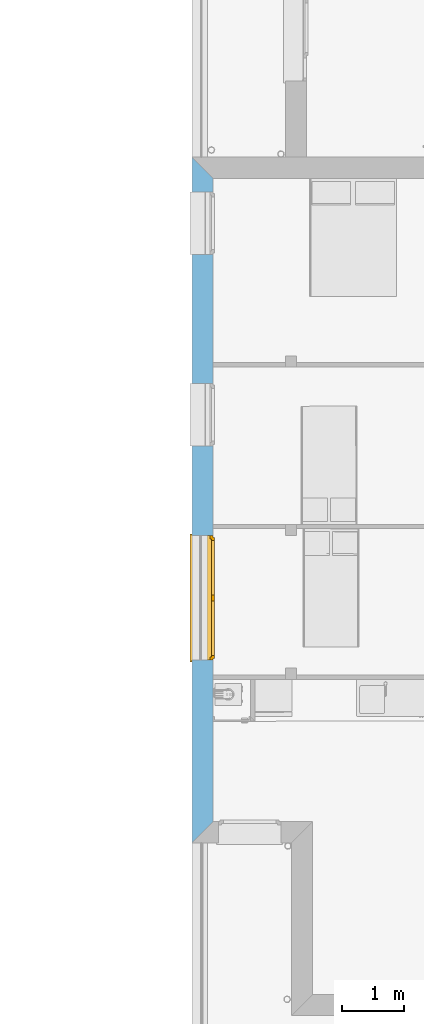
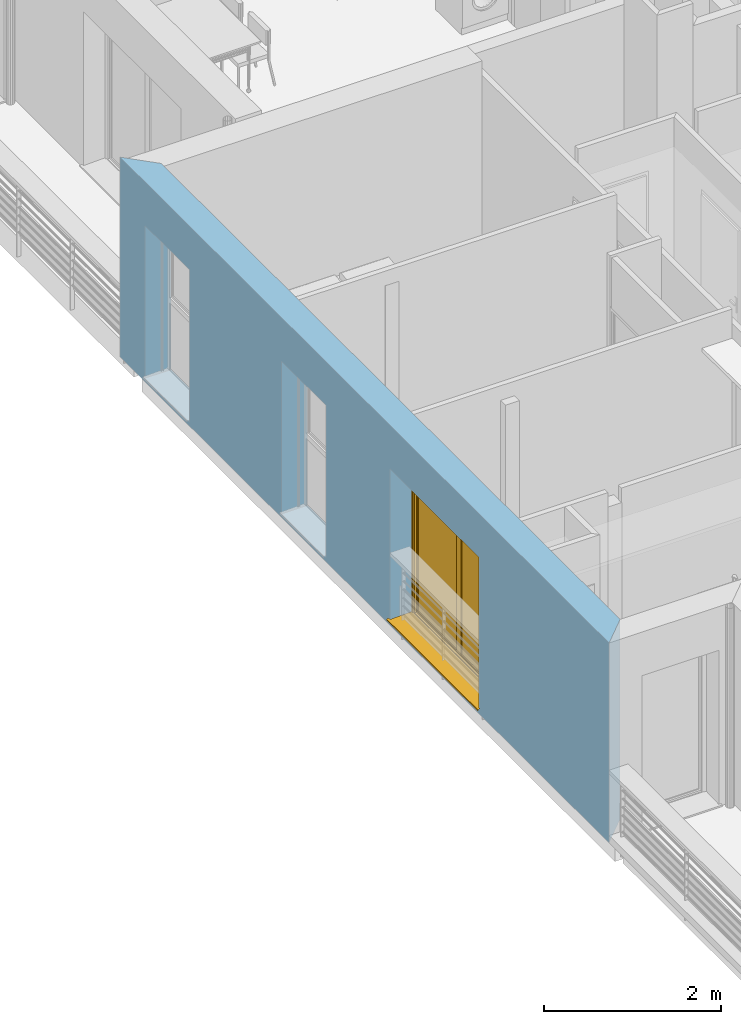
# One storey, part 28 of 171: 1 window, 3 openings, plus 1 element that does not belong to this part.
"""IFC2X3 building model written with IfcOpenShell, lengths in millimetres."""

from ifc_helpers import new_model, entity, si_unit, converted_unit, derived_unit, money_unit, direction, frame, origin_with_axes, place, context, subcontext, project, spatial, polyline, outline, extrude, open_shell, faceted_brep, surface_model, source, transform, mapped, material, layer, layer_set, layer_usage, type_object, element, fill, save


model = new_model("IFC2X3")

# Units and contexts
model_context = context("Model", 3, precision=0.01, world=origin_with_axes(), true_north=direction((0.0, 1.0)))
body_context = subcontext(model_context, "Body", "Model", "MODEL_VIEW")
ifc_project = project(units=[si_unit("LENGTHUNIT", "METRE", prefix="MILLI"), si_unit("AREAUNIT", "SQUARE_METRE"), si_unit("VOLUMEUNIT", "CUBIC_METRE"), converted_unit("PLANEANGLEUNIT", "DEGREE", entity("IfcPlaneAngleMeasure", 0.0174532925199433), si_unit("PLANEANGLEUNIT", "RADIAN"), dimensions=[0, 0, 0, 0, 0, 0, 0]), money_unit("USD"), converted_unit("TIMEUNIT", "Year", entity("IfcTimeMeasure", 31557600.0), si_unit("TIMEUNIT", "SECOND"), dimensions=[0, 0, 1, 0, 0, 0, 0]), si_unit("MASSUNIT", "GRAM", prefix="KILO"), si_unit("THERMODYNAMICTEMPERATUREUNIT", "DEGREE_CELSIUS"), si_unit("LUMINOUSINTENSITYUNIT", "LUMEN"), si_unit("ENERGYUNIT", "JOULE", prefix="MEGA"), derived_unit("THERMALCONDUCTANCEUNIT", [(si_unit("POWERUNIT", "WATT"), 1), (si_unit("LENGTHUNIT", "METRE"), -1), (si_unit("THERMODYNAMICTEMPERATUREUNIT", "KELVIN"), -1)]), derived_unit("SPECIFICHEATCAPACITYUNIT", [(si_unit("ENERGYUNIT", "JOULE"), 1), (si_unit("MASSUNIT", "GRAM", prefix="KILO"), -1), (si_unit("THERMODYNAMICTEMPERATUREUNIT", "KELVIN"), -1)]), derived_unit("MASSDENSITYUNIT", [(si_unit("MASSUNIT", "GRAM", prefix="KILO"), 1), (si_unit("VOLUMEUNIT", "CUBIC_METRE"), -1)])], contexts=[model_context])

# Site, building, storey
site_placement = place(None, origin_with_axes())
site = spatial("IfcSite", under=ifc_project, at=site_placement, Name="Site", CompositionType="ELEMENT")
building_placement = place(site_placement, origin_with_axes())
building = spatial("IfcBuilding", under=site, at=building_placement, Name="Bâtiment", CompositionType="ELEMENT")
storey_placement = place(building_placement, frame((0.0, 0.0, 3000.0), z_axis=(0.0, 0.0, 1.0), x_axis=(1.0, 0.0, 0.0)))
storey = spatial("IfcBuildingStorey", under=building, at=storey_placement, Name="rdc", CompositionType="ELEMENT", Elevation=3000.0)

# Wall, openings, window
ifc_material_1 = material(Name="Parpaing 312445824")
ifc_layer_1 = layer(ifc_material_1, 180.0, ventilated="UNKNOWN")
ifc_material_2 = material(Name="Isolant styromousse 301821074")
ifc_layer_2 = layer(ifc_material_2, 160.0, ventilated="UNKNOWN")
ifc_layer_set = layer_set([ifc_layer_1, ifc_layer_2], Name="isol int 18+16 0018356637")
ifc_layer_usage = layer_usage(ifc_layer_set, "AXIS2", "POSITIVE", 0.0)
wall_type = type_object("IfcWallType", Name="isol int 18+16 0018356637 340", PredefinedType="NOTDEFINED")
wall_placement = place(storey_placement, frame((2216634.233344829, -644016.3765232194, 0.0), z_axis=(0.0, 0.0, 1.0), x_axis=(-5.304001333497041e-10, -1.0, 0.0)))
wall = element("IfcWallStandardCase", 1, at=wall_placement, inside=storey, type_object=wall_type, material=ifc_layer_usage, Name="Mur-143", context=body_context, shape_type="SweptSolid", body=[
    extrude(outline(polyline([(0.0, 0.0), (11025.09125507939, 0.0), (10685.09125489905, 340.0000000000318), (339.9999955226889, 340.0000000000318), (0.0, 0.0)])), origin_with_axes(), (0.0, 0.0, 1.0), 2750.0),
])
opening_1_placement = place(wall_placement, frame((1062.585342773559, 2.273736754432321e-10, 49.99999999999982), z_axis=(0.0, 0.0, 1.0), x_axis=(1.0, 0.0, 0.0)))
element("IfcOpeningElement", 2, at=opening_1_placement, cuts=wall, Name="Fen-154", context=body_context, shape_type="Brep", body=[
    faceted_brep([(-500.0000001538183, 290.0000002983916, 2100.0), (-500.0000001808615, 341.0000002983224, 2100.0), (-500.0000001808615, 341.0000002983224, 0.0), (-500.0000001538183, 290.0000002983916, 0.0), (-500.000000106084, 200.0000002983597, 2100.0), (-500.000000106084, 200.0000002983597, 2300.0), (-500.0000002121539, 400.0000002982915, 2300.0), (-500.0000002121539, 400.0000002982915, 2100.0), (499.9999998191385, 341.0000008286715, 2100.0), (499.9999998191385, 341.0000008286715, 0.0), (499.9999998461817, 290.0000008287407, 0.0), (500.0000000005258, -1.000005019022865, 0.0), (-499.9999999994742, -1.000005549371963, 0.0), (-499.9999999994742, -1.000005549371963, 2100.0), (499.999999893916, 200.0000008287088, 2100.0), (499.999999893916, 200.0000008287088, 2300.0), (499.9999997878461, 400.0000008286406, 2300.0), (499.9999997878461, 400.0000008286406, 2100.0), (499.9999998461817, 290.0000008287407, 2100.0), (500.0000000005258, -1.000005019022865, 2100.0)], [[[0, 1, 2, 3]], [[1, 0, 4, 5, 6, 7]], [[1, 8, 9, 2]], [[10, 11, 12, 3, 2, 9]], [[4, 0, 3, 12, 13]], [[4, 14, 15, 5]], [[15, 16, 6, 5]], [[16, 17, 7, 6]], [[8, 1, 7, 17]], [[8, 18, 10, 9]], [[18, 14, 19, 11, 10]], [[13, 12, 11, 19]], [[14, 4, 13, 19]], [[18, 8, 17, 16, 15, 14]]]),
])
opening_2_placement = place(wall_placement, frame((4141.773490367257, 1.13686837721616e-10, 49.99999999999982), z_axis=(0.0, 0.0, 1.0), x_axis=(1.0, 0.0, 0.0)))
element("IfcOpeningElement", 3, at=opening_2_placement, cuts=wall, Name="Fen-154", context=body_context, shape_type="Brep", body=[
    faceted_brep([(-500.0000001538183, 290.0000019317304, 2100.0), (-500.0000001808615, 341.0000019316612, 2100.0), (-500.0000001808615, 341.0000019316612, 0.0), (-500.0000001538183, 290.0000019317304, 0.0), (-500.000000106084, 200.0000019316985, 2100.0), (-500.000000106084, 200.0000019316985, 2300.0), (-500.0000002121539, 400.0000019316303, 2300.0), (-500.0000002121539, 400.0000019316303, 2100.0), (499.9999998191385, 341.0000024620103, 2100.0), (499.9999998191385, 341.0000024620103, 0.0), (499.9999998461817, 290.0000024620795, 0.0), (500.0000000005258, -1.000003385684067, 0.0), (-499.9999999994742, -1.000003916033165, 0.0), (-499.9999999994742, -1.000003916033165, 2100.0), (499.999999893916, 200.0000024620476, 2100.0), (499.999999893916, 200.0000024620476, 2300.0), (499.9999997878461, 400.0000024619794, 2300.0), (499.9999997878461, 400.0000024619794, 2100.0), (499.9999998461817, 290.0000024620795, 2100.0), (500.0000000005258, -1.000003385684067, 2100.0)], [[[0, 1, 2, 3]], [[1, 0, 4, 5, 6, 7]], [[1, 8, 9, 2]], [[10, 11, 12, 3, 2, 9]], [[4, 0, 3, 12, 13]], [[4, 14, 15, 5]], [[15, 16, 6, 5]], [[16, 17, 7, 6]], [[8, 1, 7, 17]], [[8, 18, 10, 9]], [[18, 14, 19, 11, 10]], [[13, 12, 11, 19]], [[14, 4, 13, 19]], [[18, 8, 17, 16, 15, 14]]]),
])
opening_3_placement = place(wall_placement, frame((7087.273470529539, 1.13686837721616e-10, 49.99999999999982), z_axis=(0.0, 0.0, 1.0), x_axis=(1.0, 0.0, 0.0)))
opening_3 = element("IfcOpeningElement", 4, at=opening_3_placement, cuts=wall, Name="Fen-207", context=body_context, shape_type="Brep", body=[
    faceted_brep([(-1000.000000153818, 290.0000032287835, 2100.0), (-1000.000000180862, 341.0000032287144, 2100.0), (-1000.000000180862, 341.0000032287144, 0.0), (-1000.000000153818, 290.0000032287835, 0.0), (-1000.000000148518, 280.0000032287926, 2100.0), (-1000.000000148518, 280.0000032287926, 2350.0), (-1000.000000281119, 530.0000032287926, 2350.0), (-1000.000000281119, 530.0000032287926, 2100.0), (999.9999998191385, 341.0000042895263, 2100.0), (999.9999998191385, 341.0000042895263, 0.0), (999.9999998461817, 290.0000042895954, 0.0), (1000.000000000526, -1.000001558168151, 0.0), (-999.9999999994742, -1.000002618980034, 0.0), (-999.9999999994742, -1.000002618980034, 2100.0), (999.9999998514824, 280.0000042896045, 2100.0), (999.9999998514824, 280.0000042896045, 2350.0), (999.9999997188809, 530.0000042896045, 2350.0), (999.9999997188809, 530.0000042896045, 2100.0), (999.9999998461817, 290.0000042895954, 2100.0), (1000.000000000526, -1.000001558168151, 2100.0)], [[[0, 1, 2, 3]], [[1, 0, 4, 5, 6, 7]], [[1, 8, 9, 2]], [[10, 11, 12, 3, 2, 9]], [[4, 0, 3, 12, 13]], [[4, 14, 15, 5]], [[6, 5, 15, 16]], [[7, 6, 16, 17]], [[8, 1, 7, 17]], [[8, 18, 10, 9]], [[18, 14, 19, 11, 10]], [[13, 12, 11, 19]], [[14, 4, 13, 19]], [[18, 8, 17, 16, 15, 14]]]),
])
window_style = type_object("IfcWindowStyle", Name="Fenêtre châssis double variable 27", ConstructionType="NOTDEFINED", OperationType="DOUBLE_PANEL_VERTICAL", ParameterTakesPrecedence=False, Sizeable=False)
shared_shape = source(origin_with_axes(), body_context, "Body", "SurfaceModel", [
    surface_model("IfcShellBasedSurfaceModel", [(-1000.0, -51.00000000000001, 40.00000000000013), (1000.0, -51.00000000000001, 40.0), (1000.0, -51.00000000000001, 50.0), (-1000.0, -51.00000000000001, 50.00000000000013), (-1030.0, -369.9999999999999, 28.96551724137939), (1030.0, -369.9999999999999, 28.96551724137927), (1030.0, -339.9999999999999, 30.00324289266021), (1000.0, -339.9999999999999, 30.00324289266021), (-1000.0, -339.9999999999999, 30.00324289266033), (-1030.0, -339.9999999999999, 30.00324289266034), (-1030.0, -369.9999999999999, 8.965517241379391), (1030.0, -369.9999999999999, 8.965517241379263), (-1030.0, -359.9999999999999, 18.96551724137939), (1030.0, -359.9999999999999, 18.96551724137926)], [open_shell([[[0, 1, 2, 3]], [[4, 5, 6, 7, 1, 0, 8, 9]], [[10, 11, 5, 4]], [[12, 13, 11, 10]]])]),
    faceted_brep([(1000.0, -60.00000000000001, 2350.0), (1000.0, 190.0, 2350.0), (997.0, 190.0, 2350.0), (997.0, -60.00000000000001, 2350.0), (1000.0, -60.00000000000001, 2100.0), (1000.0, 190.0, 2100.0), (997.0, 190.0, 2100.0), (997.0, -60.00000000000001, 2100.0)], [[[0, 1, 2, 3]], [[0, 4, 5, 1]], [[1, 5, 6, 2]], [[3, 2, 6, 7]], [[4, 0, 3, 7]], [[5, 4, 7, 6]]]),
    faceted_brep([(-997.0000000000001, -59.99999999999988, 2350.0), (-997.0000000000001, 190.0000000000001, 2350.0), (-1000.0, 190.0000000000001, 2350.0), (-1000.0, -59.99999999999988, 2350.0), (-997.0000000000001, -59.99999999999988, 2100.0), (-997.0000000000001, 190.0000000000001, 2100.0), (-1000.0, 190.0000000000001, 2100.0), (-1000.0, -59.99999999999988, 2100.0)], [[[0, 1, 2, 3]], [[0, 4, 5, 1]], [[1, 5, 6, 2]], [[3, 2, 6, 7]], [[4, 0, 3, 7]], [[5, 4, 7, 6]]]),
    faceted_brep([(997.0, -60.0, 2100.0), (997.0, -60.0, 2350.0), (-997.0, -59.99999999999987, 2350.0), (-997.0, -59.99999999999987, 2100.0), (997.0, -56.99999999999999, 2100.0), (997.0, -56.99999999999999, 2347.0), (997.0, 187.0, 2347.0), (997.0, 187.0, 2103.0), (997.0, -37.99999999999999, 2103.0), (997.0, -37.99999999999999, 2100.0), (997.0, 190.0, 2100.0), (997.0, 190.0, 2350.0), (-997.0, 190.0000000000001, 2350.0), (-997.0, 190.0000000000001, 2100.0), (-997.0, -37.99999999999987, 2100.0), (-997.0, -37.99999999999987, 2103.0), (-997.0, 187.0000000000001, 2103.0), (-997.0, 187.0000000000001, 2347.0), (-997.0, -56.99999999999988, 2347.0), (-997.0, -56.99999999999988, 2100.0)], [[[0, 1, 2, 3]], [[0, 4, 5, 6, 7, 8, 9, 10, 11, 1]], [[1, 11, 12, 2]], [[3, 2, 12, 13, 14, 15, 16, 17, 18, 19]], [[4, 0, 3, 19]], [[5, 4, 19, 18]], [[6, 5, 18, 17]], [[7, 6, 17, 16]], [[8, 7, 16, 15]], [[9, 8, 15, 14]], [[10, 9, 14, 13]], [[11, 10, 13, 12]]]),
    faceted_brep([(994.0, -40.37442957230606, 2206.419644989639), (994.0, -35.54711042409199, 2188.403844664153), (994.0, -27.66471820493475, 2171.5), (994.0, -16.9667554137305, 2156.22172576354), (994.0, -3.778274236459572, 2143.03324458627), (994.0, 11.50000000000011, 2132.335281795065), (994.0, 28.40384466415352, 2124.452889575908), (994.0, 46.4196449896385, 2119.625570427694), (994.0, 65.00000000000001, 2118.0), (994.0, 83.58035501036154, 2119.625570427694), (994.0, 101.5961553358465, 2124.452889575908), (994.0, 118.4999999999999, 2132.335281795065), (994.0, 133.7782742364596, 2143.03324458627), (994.0, 146.9667554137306, 2156.22172576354), (994.0, 157.6647182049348, 2171.5), (994.0, 165.5471104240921, 2188.403844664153), (994.0, 170.3744295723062, 2206.419644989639), (994.0, 171.9999999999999, 2225.0), (994.0, 170.3744295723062, 2243.580355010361), (994.0, 165.5471104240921, 2261.596155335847), (994.0, 157.6647182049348, 2278.5), (994.0, 146.9667554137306, 2293.77827423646), (994.0, 133.7782742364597, 2306.966755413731), (994.0, 118.5, 2317.664718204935), (994.0, 101.5961553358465, 2325.547110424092), (994.0, 83.58035501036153, 2330.374429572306), (994.0, 64.99999999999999, 2332.0), (994.0, 46.41964498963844, 2330.374429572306), (994.0, 28.40384466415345, 2325.547110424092), (994.0, 11.5, 2317.664718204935), (994.0, -3.778274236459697, 2306.966755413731), (994.0, -16.96675541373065, 2293.77827423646), (994.0, -27.66471820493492, 2278.5), (994.0, -35.54711042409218, 2261.596155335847), (994.0, -40.37442957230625, 2243.580355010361), (994.0, -41.99999999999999, 2225.0), (-994.0, -40.37442957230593, 2206.419644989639), (-994.0, -35.54711042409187, 2188.403844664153), (-994.0, -27.66471820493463, 2171.5), (-994.0, -16.96675541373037, 2156.22172576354), (-994.0, -3.778274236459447, 2143.03324458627), (-994.0, 11.50000000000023, 2132.335281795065), (-994.0, 28.40384466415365, 2124.452889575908), (-994.0, 46.41964498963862, 2119.625570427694), (-994.0, 65.00000000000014, 2118.0), (-994.0, 83.58035501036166, 2119.625570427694), (-994.0, 101.5961553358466, 2124.452889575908), (-994.0, 118.5000000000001, 2132.335281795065), (-994.0, 133.7782742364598, 2143.03324458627), (-994.0, 146.9667554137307, 2156.22172576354), (-994.0, 157.6647182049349, 2171.5), (-994.0, 165.5471104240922, 2188.403844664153), (-994.0, 170.3744295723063, 2206.419644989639), (-994.0, 172.0, 2225.0), (-994.0, 170.3744295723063, 2243.580355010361), (-994.0, 165.5471104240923, 2261.596155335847), (-994.0, 157.664718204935, 2278.5), (-994.0, 146.9667554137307, 2293.77827423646), (-994.0, 133.7782742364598, 2306.966755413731), (-994.0, 118.5000000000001, 2317.664718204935), (-994.0, 101.5961553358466, 2325.547110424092), (-994.0, 83.58035501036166, 2330.374429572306), (-994.0, 65.00000000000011, 2332.0), (-994.0, 46.41964498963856, 2330.374429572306), (-994.0, 28.40384466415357, 2325.547110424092), (-994.0, 11.50000000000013, 2317.664718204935), (-994.0, -3.778274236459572, 2306.966755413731), (-994.0, -16.96675541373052, 2293.77827423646), (-994.0, -27.6647182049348, 2278.5), (-994.0, -35.54711042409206, 2261.596155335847), (-994.0, -40.37442957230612, 2243.580355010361), (-994.0, -41.99999999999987, 2225.0)], [[[0, 1, 2, 3, 4, 5, 6, 7, 8, 9, 10, 11, 12, 13, 14, 15, 16, 17, 18, 19, 20, 21, 22, 23, 24, 25, 26, 27, 28, 29, 30, 31, 32, 33, 34, 35]], [[1, 0, 36, 37]], [[2, 1, 37, 38]], [[3, 2, 38, 39]], [[4, 3, 39, 40]], [[5, 4, 40, 41]], [[6, 5, 41, 42]], [[7, 6, 42, 43]], [[8, 7, 43, 44]], [[9, 8, 44, 45]], [[10, 9, 45, 46]], [[11, 10, 46, 47]], [[12, 11, 47, 48]], [[13, 12, 48, 49]], [[14, 13, 49, 50]], [[15, 14, 50, 51]], [[16, 15, 51, 52]], [[17, 16, 52, 53]], [[18, 17, 53, 54]], [[19, 18, 54, 55]], [[20, 19, 55, 56]], [[21, 20, 56, 57]], [[22, 21, 57, 58]], [[23, 22, 58, 59]], [[24, 23, 59, 60]], [[25, 24, 60, 61]], [[26, 25, 61, 62]], [[27, 26, 62, 63]], [[28, 27, 63, 64]], [[29, 28, 64, 65]], [[30, 29, 65, 66]], [[31, 30, 66, 67]], [[32, 31, 67, 68]], [[33, 32, 68, 69]], [[34, 33, 69, 70]], [[35, 34, 70, 71]], [[0, 35, 71, 36]], [[36, 71, 70, 69, 68, 67, 66, 65, 64, 63, 62, 61, 60, 59, 58, 57, 56, 55, 54, 53, 52, 51, 50, 49, 48, 47, 46, 45, 44, 43, 42, 41, 40, 39, 38, 37]]]),
    faceted_brep([(-1000.0, -34.99999999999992, 30.0), (-1000.0, -59.99999999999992, 30.0), (-1000.0, -59.99999999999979, 2100.0), (-1000.0, -34.99999999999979, 2100.0), (-975.0, -34.99999999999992, 30.0), (-975.0, -37.99999999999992, 30.0), (-997.0, -37.99999999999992, 30.0), (-997.0, -56.99999999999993, 30.0), (-975.0, -56.99999999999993, 30.0), (-975.0, -59.99999999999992, 30.0), (-975.0, -59.99999999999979, 2100.0), (-975.0, -56.99999999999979, 2100.0), (-997.0, -56.99999999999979, 2100.0), (-997.0, -37.99999999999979, 2100.0), (-975.0, -37.99999999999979, 2100.0), (-975.0, -34.99999999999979, 2100.0)], [[[0, 1, 2, 3]], [[0, 4, 5, 6, 7, 8, 9, 1]], [[1, 9, 10, 2]], [[3, 2, 10, 11, 12, 13, 14, 15]], [[4, 0, 3, 15]], [[5, 4, 15, 14]], [[6, 5, 14, 13]], [[7, 6, 13, 12]], [[8, 7, 12, 11]], [[9, 8, 11, 10]]]),
    faceted_brep([(1000.0, -34.99999999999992, 30.0), (1000.0, -34.99999999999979, 2100.0), (1000.0, -59.99999999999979, 2100.0), (1000.0, -59.99999999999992, 30.0), (975.0, -34.99999999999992, 30.0), (975.0, -34.99999999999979, 2100.0), (975.0, -37.99999999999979, 2100.0), (997.0, -37.99999999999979, 2100.0), (997.0, -56.99999999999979, 2100.0), (975.0, -56.99999999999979, 2100.0), (975.0, -59.99999999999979, 2100.0), (975.0, -59.99999999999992, 30.0), (975.0, -56.99999999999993, 30.0), (997.0, -56.99999999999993, 30.0), (997.0, -37.99999999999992, 30.0), (975.0, -37.99999999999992, 30.0)], [[[0, 1, 2, 3]], [[4, 5, 1, 0]], [[1, 5, 6, 7, 8, 9, 10, 2]], [[3, 2, 10, 11]], [[0, 3, 11, 12, 13, 14, 15, 4]], [[15, 6, 5, 4]], [[14, 7, 6, 15]], [[13, 8, 7, 14]], [[12, 9, 8, 13]], [[11, 10, 9, 12]]]),
    faceted_brep([(-997.0, -46.66666666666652, 2225.0), (997.0, -46.66666666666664, 2225.0), (997.0, -46.66666666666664, 2216.666666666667), (-997.0, -46.66666666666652, 2216.666666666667), (-997.0, -51.66666666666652, 2225.0), (997.0, -51.66666666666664, 2225.0), (997.0, -51.66666666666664, 2216.666666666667), (997.0, -49.99999999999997, 2200.0), (997.0, -44.99999999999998, 2200.0), (-997.0, -44.99999999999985, 2200.0), (-997.0, -49.99999999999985, 2200.0), (-997.0, -51.66666666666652, 2216.666666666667)], [[[0, 1, 2, 3]], [[1, 0, 4, 5]], [[1, 5, 6, 7, 8, 2]], [[2, 8, 9, 3]], [[4, 0, 3, 9, 10, 11]], [[6, 5, 4, 11]], [[7, 6, 11, 10]], [[8, 7, 10, 9]]]),
    faceted_brep([(997.0, -44.99999999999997, 2200.0), (997.0, -46.66666666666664, 2183.333333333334), (-997.0, -46.66666666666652, 2183.333333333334), (-997.0, -44.99999999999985, 2200.0), (997.0, -49.99999999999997, 2200.0), (997.0, -51.66666666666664, 2183.333333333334), (997.0, -51.66666666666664, 2166.666666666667), (997.0, -49.99999999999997, 2150.000000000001), (997.0, -44.99999999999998, 2150.000000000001), (997.0, -46.66666666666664, 2166.666666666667), (-997.0, -46.66666666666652, 2166.666666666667), (-997.0, -44.99999999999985, 2150.000000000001), (-997.0, -49.99999999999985, 2150.000000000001), (-997.0, -51.66666666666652, 2166.666666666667), (-997.0, -51.66666666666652, 2183.333333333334), (-997.0, -49.99999999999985, 2200.0)], [[[0, 1, 2, 3]], [[0, 4, 5, 6, 7, 8, 9, 1]], [[1, 9, 10, 2]], [[3, 2, 10, 11, 12, 13, 14, 15]], [[4, 0, 3, 15]], [[5, 4, 15, 14]], [[6, 5, 14, 13]], [[7, 6, 13, 12]], [[8, 7, 12, 11]], [[9, 8, 11, 10]]]),
    faceted_brep([(997.0, -44.99999999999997, 2150.000000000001), (997.0, -46.66666666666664, 2133.333333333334), (-997.0, -46.66666666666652, 2133.333333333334), (-997.0, -44.99999999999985, 2150.000000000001), (997.0, -49.99999999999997, 2150.000000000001), (997.0, -51.66666666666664, 2133.333333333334), (997.0, -51.66666666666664, 2116.666666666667), (997.0, -49.99999999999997, 2100.000000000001), (997.0, -44.99999999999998, 2100.000000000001), (997.0, -46.66666666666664, 2116.666666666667), (-997.0, -46.66666666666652, 2116.666666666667), (-997.0, -44.99999999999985, 2100.000000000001), (-997.0, -49.99999999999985, 2100.000000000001), (-997.0, -51.66666666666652, 2116.666666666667), (-997.0, -51.66666666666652, 2133.333333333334), (-997.0, -49.99999999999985, 2150.000000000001)], [[[0, 1, 2, 3]], [[0, 4, 5, 6, 7, 8, 9, 1]], [[1, 9, 10, 2]], [[3, 2, 10, 11, 12, 13, 14, 15]], [[4, 0, 3, 15]], [[5, 4, 15, 14]], [[6, 5, 14, 13]], [[7, 6, 13, 12]], [[8, 7, 12, 11]], [[9, 8, 11, 10]]]),
    faceted_brep([(975.0, 0.0, 2050.0), (975.0, -25.00000000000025, 2050.0), (950.0, -25.00000000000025, 2050.0), (950.0, -50.00000000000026, 2050.0), (1000.0, -50.00000000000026, 2050.0), (1000.0, 0.0, 2050.0), (975.0, 0.0, 50.00000000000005), (975.0, -25.00000000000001, 50.00000000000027), (950.0, -25.00000000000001, 50.00000000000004), (950.0, -50.00000000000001, 50.00000000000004), (1000.0, -50.00000000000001, 50.00000000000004), (1000.0, 0.0, 50.00000000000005)], [[[0, 1, 2, 3, 4, 5]], [[1, 0, 6, 7]], [[8, 2, 1, 7]], [[2, 8, 9, 3]], [[4, 3, 9, 10]], [[5, 4, 10, 11]], [[6, 0, 5, 11]], [[7, 6, 11, 10, 9, 8]]]),
    faceted_brep([(-950.0, -25.00000000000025, 2050.0), (-975.0, -25.00000000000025, 2050.0), (-975.0, 0.0, 2050.0), (-1000.0, 0.0, 2050.0), (-1000.0, -50.00000000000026, 2050.0), (-950.0, -50.00000000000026, 2050.0), (-950.0, -25.00000000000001, 50.00000000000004), (-975.0, -25.00000000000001, 50.00000000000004), (-975.0, 0.0, 50.00000000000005), (-1000.0, 0.0, 50.00000000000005), (-1000.0, -50.00000000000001, 50.00000000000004), (-950.0, -50.00000000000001, 50.00000000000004)], [[[0, 1, 2, 3, 4, 5]], [[1, 0, 6, 7]], [[8, 2, 1, 7]], [[2, 8, 9, 3]], [[9, 10, 4, 3]], [[10, 11, 5, 4]], [[6, 0, 5, 11]], [[7, 6, 11, 10, 9, 8]]]),
    faceted_brep([(-950.0, -25.00000000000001, 50.00000000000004), (-975.0, -25.00000000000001, 50.00000000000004), (-975.0, 0.0, 50.00000000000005), (-1000.0, 0.0, 50.00000000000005), (-1000.0, -50.00000000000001, 50.00000000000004), (-950.0, -50.00000000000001, 50.00000000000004), (950.0, -25.00000000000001, 50.00000000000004), (975.0, -25.00000000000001, 50.00000000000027), (975.0, -25.0, 24.99999999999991), (-975.0, -25.0, 24.99999999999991), (-975.0, 0.0, 24.99999999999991), (975.0, 0.0, 24.99999999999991), (975.0, 0.0, 50.00000000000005), (1000.0, 0.0, 50.00000000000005), (1000.0, 0.0, 0.0), (-1000.0, 0.0, 0.0), (-1000.0, -50.0, 0.0), (1000.0, -50.00000000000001, 50.00000000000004), (950.0, -50.00000000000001, 50.00000000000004), (1000.0, -50.0, 0.0)], [[[0, 1, 2, 3, 4, 5]], [[1, 0, 6, 7, 8, 9]], [[10, 2, 1, 9]], [[11, 12, 13, 14, 15, 3, 2, 10]], [[15, 16, 4, 3]], [[17, 18, 5, 4, 16, 19]], [[6, 0, 5, 18]], [[7, 6, 18, 17, 13, 12]], [[7, 12, 11, 8]], [[11, 10, 9, 8]], [[13, 17, 19, 14]], [[14, 19, 16, 15]]]),
    faceted_brep([(975.0, 0.0, 2050.0), (975.0, 0.0, 2075.0), (-975.0, 0.0, 2075.0), (-975.0, 0.0, 2050.0), (-1000.0, 0.0, 2050.0), (-1000.0, 0.0, 2100.0), (1000.0, 0.0, 2100.0), (1000.0, 0.0, 2050.0), (975.0, -25.00000000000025, 2050.0), (975.0, -25.00000000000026, 2075.0), (-975.0, -25.00000000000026, 2075.0), (-975.0, -25.00000000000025, 2050.0), (-950.0, -25.00000000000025, 2050.0), (-950.0, -50.00000000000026, 2050.0), (-1000.0, -50.00000000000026, 2050.0), (-1000.0, -50.00000000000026, 2100.0), (1000.0, -50.00000000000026, 2100.0), (1000.0, -50.00000000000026, 2050.0), (950.0, -50.00000000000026, 2050.0), (950.0, -25.00000000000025, 2050.0)], [[[0, 1, 2, 3, 4, 5, 6, 7]], [[1, 0, 8, 9]], [[2, 1, 9, 10]], [[3, 2, 10, 11]], [[11, 12, 13, 14, 4, 3]], [[4, 14, 15, 5]], [[5, 15, 16, 6]], [[6, 16, 17, 7]], [[8, 0, 7, 17, 18, 19]], [[12, 11, 10, 9, 8, 19]], [[12, 19, 18, 13]], [[14, 13, 18, 17, 16, 15]]]),
    faceted_brep([(925.0, -25.00000000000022, 2025.0), (975.0, -25.00000000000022, 2025.0), (975.0, 24.99999999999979, 2025.0), (925.0, 24.99999999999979, 2025.0), (925.0, -24.99999999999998, 75.00000000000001), (975.0, -24.99999999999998, 75.00000000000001), (975.0, 25.00000000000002, 75.00000000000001), (925.0, 25.00000000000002, 75.00000000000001)], [[[0, 1, 2, 3]], [[0, 4, 5, 1]], [[1, 5, 6, 2]], [[3, 2, 6, 7]], [[4, 0, 3, 7]], [[5, 4, 7, 6]]]),
    faceted_brep([(49.99999999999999, -25.00000000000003, 75.00000000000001), (0.0, -25.00000000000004, 75.00000000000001), (0.0, 24.99999999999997, 75.00000000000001), (49.99999999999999, 24.99999999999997, 75.00000000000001), (49.99999999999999, -25.00000000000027, 2025.0), (0.0, -25.00000000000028, 2025.0), (0.0, 24.99999999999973, 2025.0), (49.99999999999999, 24.99999999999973, 2025.0)], [[[0, 1, 2, 3]], [[0, 4, 5, 1]], [[1, 5, 6, 2]], [[3, 2, 6, 7]], [[4, 0, 3, 7]], [[5, 4, 7, 6]]]),
    faceted_brep([(0.0, -25.00000000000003, 25.0), (0.0, -25.00000000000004, 75.00000000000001), (0.0, 24.99999999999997, 75.00000000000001), (0.0, 24.99999999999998, 25.00000000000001), (975.0, -24.99999999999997, 25.0), (975.0, -24.99999999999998, 75.00000000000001), (925.0, -24.99999999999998, 75.00000000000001), (49.99999999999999, -25.00000000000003, 75.00000000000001), (49.99999999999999, 24.99999999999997, 75.00000000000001), (925.0, 25.00000000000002, 75.00000000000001), (975.0, 25.00000000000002, 75.00000000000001), (975.0, 25.00000000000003, 25.00000000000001)], [[[0, 1, 2, 3]], [[0, 4, 5, 6, 7, 1]], [[1, 7, 8, 2]], [[3, 2, 8, 9, 10, 11]], [[4, 0, 3, 11]], [[5, 4, 11, 10]], [[6, 5, 10, 9]], [[7, 6, 9, 8]]]),
    faceted_brep([(975.0, -25.00000000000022, 2075.0), (975.0, -25.00000000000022, 2025.0), (975.0, 24.99999999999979, 2025.0), (975.0, 24.99999999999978, 2075.0), (0.0, -25.00000000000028, 2075.0), (0.0, -25.00000000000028, 2025.0), (49.99999999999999, -25.00000000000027, 2025.0), (925.0, -25.00000000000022, 2025.0), (925.0, 24.99999999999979, 2025.0), (49.99999999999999, 24.99999999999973, 2025.0), (0.0, 24.99999999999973, 2025.0), (0.0, 24.99999999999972, 2075.0)], [[[0, 1, 2, 3]], [[0, 4, 5, 6, 7, 1]], [[1, 7, 8, 2]], [[3, 2, 8, 9, 10, 11]], [[4, 0, 3, 11]], [[5, 4, 11, 10]], [[6, 5, 10, 9]], [[7, 6, 9, 8]]]),
    surface_model("IfcShellBasedSurfaceModel", [(925.0, -10.00000000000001, 75.00000000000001), (925.0, -10.00000000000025, 2025.0), (49.99999999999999, -10.00000000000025, 2025.0), (49.99999999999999, -10.00000000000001, 75.00000000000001)], [open_shell([[[0, 1, 2, 3]]])]),
    surface_model("IfcShellBasedSurfaceModel", [(925.0, 9.999999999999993, 75.00000000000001), (49.99999999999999, 9.999999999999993, 75.00000000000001), (49.99999999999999, 9.999999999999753, 2025.0), (925.0, 9.999999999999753, 2025.0)], [open_shell([[[0, 1, 2, 3]]])]),
    faceted_brep([(-49.99999999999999, -25.00000000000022, 2025.0), (0.0, -25.00000000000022, 2025.0), (0.0, 24.99999999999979, 2025.0), (-49.99999999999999, 24.99999999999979, 2025.0), (-49.99999999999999, -24.99999999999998, 75.00000000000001), (0.0, -24.99999999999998, 75.00000000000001), (0.0, 25.00000000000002, 75.00000000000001), (-49.99999999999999, 25.00000000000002, 75.00000000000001)], [[[0, 1, 2, 3]], [[0, 4, 5, 1]], [[1, 5, 6, 2]], [[3, 2, 6, 7]], [[4, 0, 3, 7]], [[5, 4, 7, 6]]]),
    faceted_brep([(-925.0, -25.00000000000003, 75.00000000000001), (-975.0, -25.00000000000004, 75.00000000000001), (-975.0, 24.99999999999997, 75.00000000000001), (-925.0, 24.99999999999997, 75.00000000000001), (-925.0, -25.00000000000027, 2025.0), (-975.0, -25.00000000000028, 2025.0), (-975.0, 24.99999999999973, 2025.0), (-925.0, 24.99999999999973, 2025.0)], [[[0, 1, 2, 3]], [[0, 4, 5, 1]], [[1, 5, 6, 2]], [[3, 2, 6, 7]], [[4, 0, 3, 7]], [[5, 4, 7, 6]]]),
    faceted_brep([(-975.0, -25.00000000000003, 25.0), (-975.0, -25.00000000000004, 75.00000000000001), (-975.0, 24.99999999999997, 75.00000000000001), (-975.0, 24.99999999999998, 25.00000000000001), (0.0, -24.99999999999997, 25.0), (0.0, -24.99999999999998, 75.00000000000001), (-49.99999999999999, -24.99999999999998, 75.00000000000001), (-925.0, -25.00000000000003, 75.00000000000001), (-925.0, 24.99999999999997, 75.00000000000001), (-49.99999999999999, 25.00000000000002, 75.00000000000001), (0.0, 25.00000000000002, 75.00000000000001), (0.0, 25.00000000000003, 25.00000000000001)], [[[0, 1, 2, 3]], [[0, 4, 5, 6, 7, 1]], [[1, 7, 8, 2]], [[3, 2, 8, 9, 10, 11]], [[4, 0, 3, 11]], [[5, 4, 11, 10]], [[6, 5, 10, 9]], [[7, 6, 9, 8]]]),
    faceted_brep([(0.0, -25.00000000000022, 2075.0), (0.0, -25.00000000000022, 2025.0), (0.0, 24.99999999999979, 2025.0), (0.0, 24.99999999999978, 2075.0), (-975.0, -25.00000000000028, 2075.0), (-975.0, -25.00000000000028, 2025.0), (-925.0, -25.00000000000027, 2025.0), (-49.99999999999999, -25.00000000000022, 2025.0), (-49.99999999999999, 24.99999999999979, 2025.0), (-925.0, 24.99999999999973, 2025.0), (-975.0, 24.99999999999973, 2025.0), (-975.0, 24.99999999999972, 2075.0)], [[[0, 1, 2, 3]], [[0, 4, 5, 6, 7, 1]], [[1, 7, 8, 2]], [[3, 2, 8, 9, 10, 11]], [[4, 0, 3, 11]], [[5, 4, 11, 10]], [[6, 5, 10, 9]], [[7, 6, 9, 8]]]),
    surface_model("IfcShellBasedSurfaceModel", [(-49.99999999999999, -10.00000000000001, 75.00000000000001), (-49.99999999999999, -10.00000000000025, 2025.0), (-925.0, -10.00000000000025, 2025.0), (-925.0, -10.00000000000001, 75.00000000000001)], [open_shell([[[0, 1, 2, 3]]])]),
    surface_model("IfcShellBasedSurfaceModel", [(-49.99999999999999, 9.999999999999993, 75.00000000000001), (-925.0, 9.999999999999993, 75.00000000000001), (-925.0, 9.999999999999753, 2025.0), (-49.99999999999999, 9.999999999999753, 2025.0)], [open_shell([[[0, 1, 2, 3]]])]),
])
window_placement = place(opening_3_placement, frame((-1000.000000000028, 0.0, 0.0), z_axis=(0.0, 0.0, 1.0), x_axis=(1.0, 0.0, 0.0)))
window = element("IfcWindow", 5, at=window_placement, inside=storey, type_object=window_style, Name="Fen-207", OverallHeight=2100.0, OverallWidth=2000.0, context=body_context, shape_type="MappedRepresentation", body=[
    mapped(shared_shape, transform((999.9999998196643, 340.0000037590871, 0.0))),
])
fill(opening_3, window)

save(model, "model.ifc")
